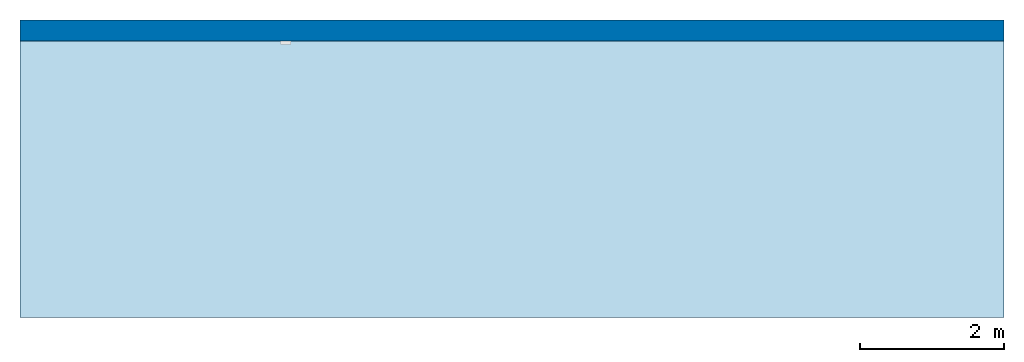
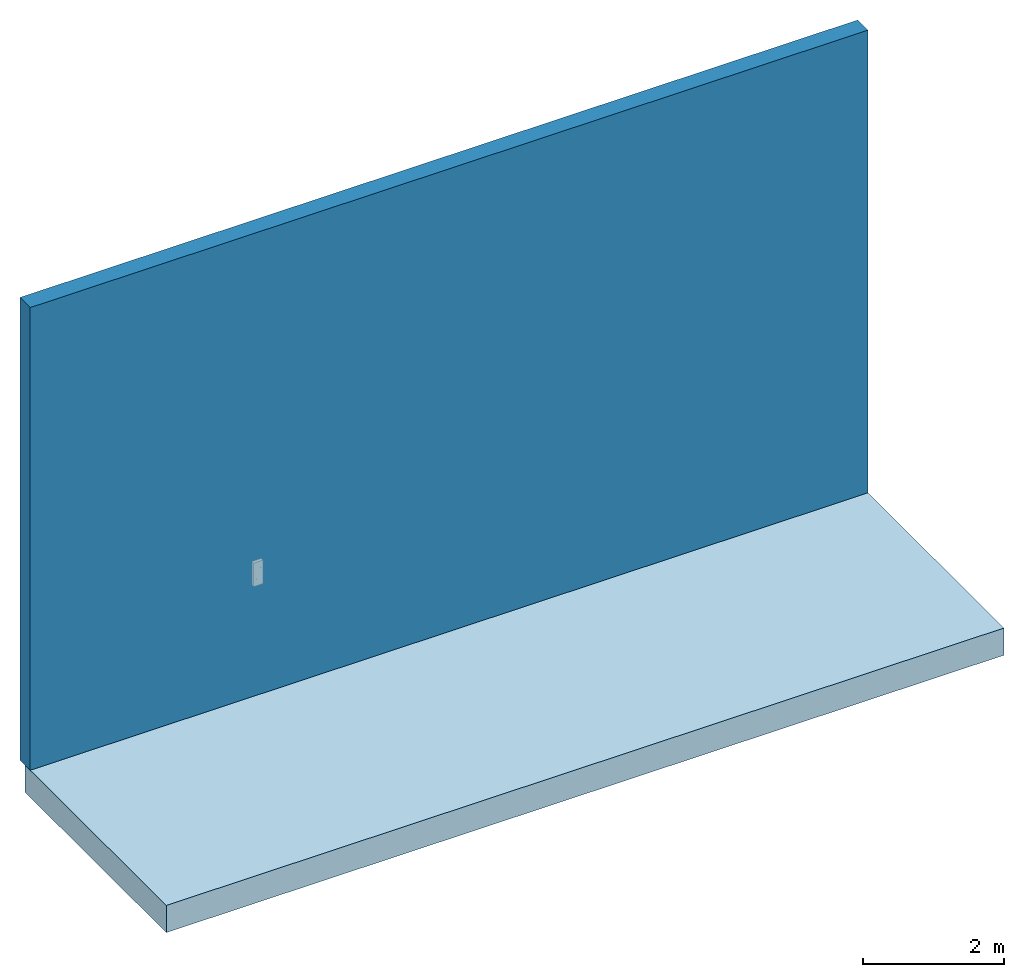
# One storey, incomplete: 1 slab, 1 wall.
"""IFC2X3 building model written with IfcOpenShell, lengths in millimetres."""

from ifc_helpers import new_model, entity, si_unit, converted_unit, derived_unit, direction, frame, frame_2d, origin, origin_2d_with_axis, place, context, subcontext, project, spatial, rectangle, extrude, material, layer, layer_set, layer_usage, type_object, element, save


model = new_model("IFC2X3")

# Units and contexts
model_context = context("Model", 3, precision=0.01, world=origin(), true_north=direction((6.12303176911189e-17, 1.0)))
body_context = subcontext(model_context, "Body", "Model", "MODEL_VIEW")
ifc_project = project(units=[si_unit("LENGTHUNIT", "METRE", prefix="MILLI"), si_unit("AREAUNIT", "SQUARE_METRE"), si_unit("VOLUMEUNIT", "CUBIC_METRE"), converted_unit("PLANEANGLEUNIT", "DEGREE", entity("IfcRatioMeasure", 0.0174532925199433), si_unit("PLANEANGLEUNIT", "RADIAN"), dimensions=[0, 0, 0, 0, 0, 0, 0]), si_unit("MASSUNIT", "GRAM", prefix="KILO"), si_unit("TIMEUNIT", "SECOND"), si_unit("FREQUENCYUNIT", "HERTZ"), si_unit("THERMODYNAMICTEMPERATUREUNIT", "DEGREE_CELSIUS"), derived_unit("THERMALTRANSMITTANCEUNIT", [(si_unit("MASSUNIT", "GRAM", prefix="KILO"), 1), (si_unit("THERMODYNAMICTEMPERATUREUNIT", "KELVIN"), -1), (si_unit("TIMEUNIT", "SECOND"), -3)]), derived_unit("VOLUMETRICFLOWRATEUNIT", [(si_unit("LENGTHUNIT", "METRE"), 3), (si_unit("TIMEUNIT", "SECOND"), -1)]), si_unit("ELECTRICCURRENTUNIT", "AMPERE"), si_unit("ELECTRICVOLTAGEUNIT", "VOLT"), si_unit("POWERUNIT", "WATT"), si_unit("FORCEUNIT", "NEWTON", prefix="KILO"), si_unit("ILLUMINANCEUNIT", "LUX"), si_unit("LUMINOUSFLUXUNIT", "LUMEN"), si_unit("LUMINOUSINTENSITYUNIT", "CANDELA"), derived_unit("USERDEFINED", [(si_unit("MASSUNIT", "GRAM", prefix="KILO"), -1), (si_unit("LENGTHUNIT", "METRE"), -2), (si_unit("TIMEUNIT", "SECOND"), 3), (si_unit("LUMINOUSFLUXUNIT", "LUMEN"), 1)]), derived_unit("LINEARVELOCITYUNIT", [(si_unit("LENGTHUNIT", "METRE"), 1), (si_unit("TIMEUNIT", "SECOND"), -1)]), si_unit("PRESSUREUNIT", "PASCAL"), derived_unit("USERDEFINED", [(si_unit("LENGTHUNIT", "METRE"), -2), (si_unit("MASSUNIT", "GRAM", prefix="KILO"), 1), (si_unit("TIMEUNIT", "SECOND"), -2)])], contexts=[model_context])

# Site, building, storey
site_placement = place(None, origin())
site = spatial("IfcSite", under=ifc_project, at=site_placement, Name="Default", CompositionType="ELEMENT")
building_placement = place(site_placement, origin())
building = spatial("IfcBuilding", under=site, at=building_placement, CompositionType="ELEMENT")
storey_placement = place(building_placement, origin())
storey = spatial("IfcBuildingStorey", under=building, at=storey_placement, Name="Level 0", CompositionType="ELEMENT", Elevation=0.0)

# Slab
ifc_material_1 = material(Name="Concrete, Sand/Cement Screed")
ifc_layer_1 = layer(ifc_material_1, 65.0)
ifc_material_2 = material(Name="Rigid insulation")
ifc_layer_2 = layer(ifc_material_2, 80.0)
ifc_material_3 = material(Name="Air")
ifc_layer_3 = layer(ifc_material_3, 150.0)
ifc_material_4 = material(Name="Concrete Masonry, Floor Block")
ifc_layer_4 = layer(ifc_material_4, 100.0)
ifc_material_5 = material(Name="Concrete, Precast")
ifc_layer_5 = layer(ifc_material_5, 75.0)
ifc_layer_set_1 = layer_set([ifc_layer_1, ifc_layer_2, ifc_layer_3, ifc_layer_4, ifc_layer_5], Name="Floor:Floor-Grnd-Susp_65Scr-80Ins-100Blk-75PC")
ifc_layer_usage_1 = layer_usage(ifc_layer_set_1, "AXIS3", "POSITIVE", 0.0)
slab_placement = place(storey_placement, origin())
element("IfcSlab", 1, at=slab_placement, inside=storey, material=ifc_layer_usage_1, Name="Floor:Floor-Grnd-Susp_65Scr-80Ins-100Blk-75PC", ObjectType="Floor:Floor-Grnd-Susp_65Scr-80Ins-100Blk-75PC", PredefinedType="FLOOR", context=body_context, shape_type="SweptSolid", body=[
    extrude(rectangle(XDim=4000.0, YDim=13700.0, at=origin_2d_with_axis()), frame((1128.60187636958, -579.58858371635, 0.0), z_axis=(0.0, 0.0, -1.0), x_axis=(0.0, 1.0, 0.0)), (0.0, 0.0, 1.0), 470.0),
])

# Wall
ifc_material_6 = material(Name="Brick, Common")
ifc_layer_6 = layer(ifc_material_6, 102.5)
ifc_material_7 = material(Name="Fiberglass Batt")
ifc_layer_7 = layer(ifc_material_7, 75.0)
ifc_material_8 = material(Name="Concrete Masonry Units _Low Density")
ifc_layer_8 = layer(ifc_material_8, 100.0)
ifc_material_9 = material(Name="Plaster")
ifc_layer_9 = layer(ifc_material_9, 12.5)
ifc_layer_set_2 = layer_set([ifc_layer_6, ifc_layer_7, ifc_layer_8, ifc_layer_9], Name="Basic Wall:Wall-Ext_102Bwk-75Ins-100LBlk-12P")
ifc_layer_usage_2 = layer_usage(ifc_layer_set_2, "AXIS2", "NEGATIVE", 145.0)
wall_type = type_object("IfcWallType", Name="Basic Wall:Wall-Ext_102Bwk-75Ins-100LBlk-12P", PredefinedType="STANDARD", material=ifc_layer_set_2)
wall_placement = place(storey_placement, frame((-5721.39812363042, 1420.41141628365, 0.0)))
element("IfcWallStandardCase", 2, at=wall_placement, inside=storey, type_object=wall_type, material=ifc_layer_usage_2, Name="Basic Wall:Wall-Ext_102Bwk-75Ins-100LBlk-12P", ObjectType="Basic Wall:Wall-Ext_102Bwk-75Ins-100LBlk-12P", context=body_context, shape_type="SweptSolid", body=[
    extrude(rectangle(XDim=13700.0, YDim=290.0, at=frame_2d((6850.0, 0.0), x_axis=(-1.0, 0.0))), origin(), (0.0, 0.0, 1.0), 8000.0),
])

save(model, "model.ifc")
